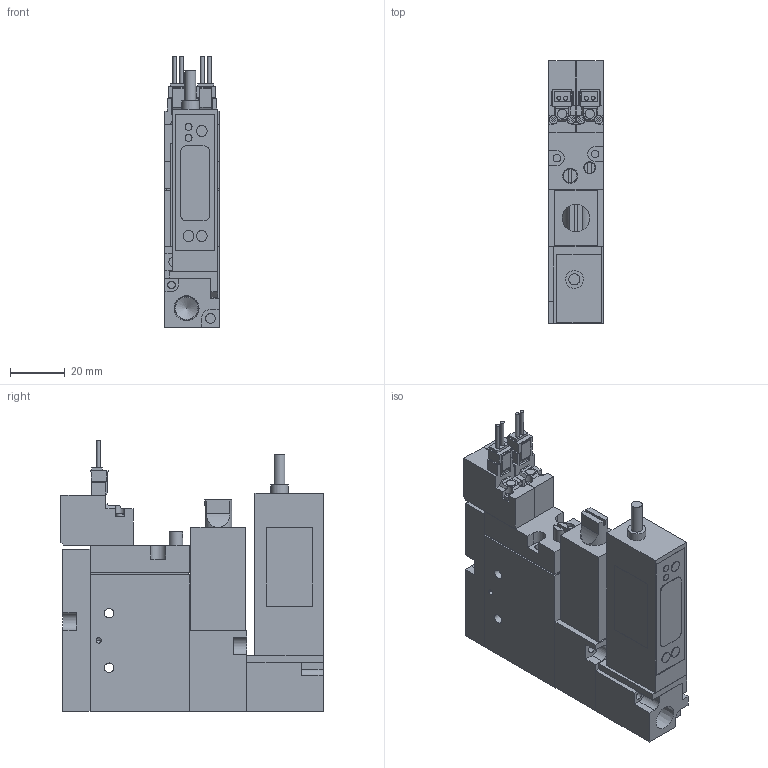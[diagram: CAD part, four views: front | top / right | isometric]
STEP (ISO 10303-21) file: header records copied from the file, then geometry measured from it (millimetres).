
FILE_DESCRIPTION(('STEP AP203'),'1');
FILE_NAME('BMPV32S2NV(R)G25BL.stp','2025-06-17T01:56:54',(' '),(' '),'Spatial InterOp 3D',' ',' ');
FILE_SCHEMA(('CONFIG_CONTROL_DESIGN'));
Length unit declared in the file: millimetre
Products named in the file (14): BMPV32S2NV(R)G25BL; Pressure sensor VGL; __ ___ (Rc); ___-3(Rc); Filter Assy; __; _____; ___ ___; ___; upper plate-A; ______; ____; VACUUM VALVE FUNCTION MPV42-A
Assembly tree (13 placements, depth 2):
  BMPV32S2NV(R)G25BL
    Pressure sensor VGL
    __ ___ (Rc)
    ___-3(Rc)
    Filter Assy
    __
    _____
    ___ ___
    ___
    upper plate-A
    ______
    ____
    VACUUM VALVE FUNCTION MPV42-A
    VACUUM VALVE FUNCTION MPV42-A
Bounding box: 20 x 96.2 x 99.25 mm (x, y, z)
Volume: 121068.7 mm3; surface area: 40505.5 mm2
Topology: 13 solids, 13 shells, 383 faces, 995 edges, 664 vertices
Faces by surface type: plane 308, cylinder 66, cone 9
Full cylindrical faces by diameter (mm): 1.4 x4, 1.8 x2, 2 x2, 2.5 x4, 2.8 x4, 3 x4, 3.5 x10, 4 x5, 4.2 x1, 5 x1, 5.5 x1, 6.5 x2, 8.2 x1, 8.759 x1
Entity records: 12011 total; most frequent: CARTESIAN_POINT 2036, DIRECTION 1881, ORIENTED_EDGE 1838, EDGE_CURVE 919, LINE 743, VECTOR 743, VERTEX_POINT 646, AXIS2_PLACEMENT_3D 569
